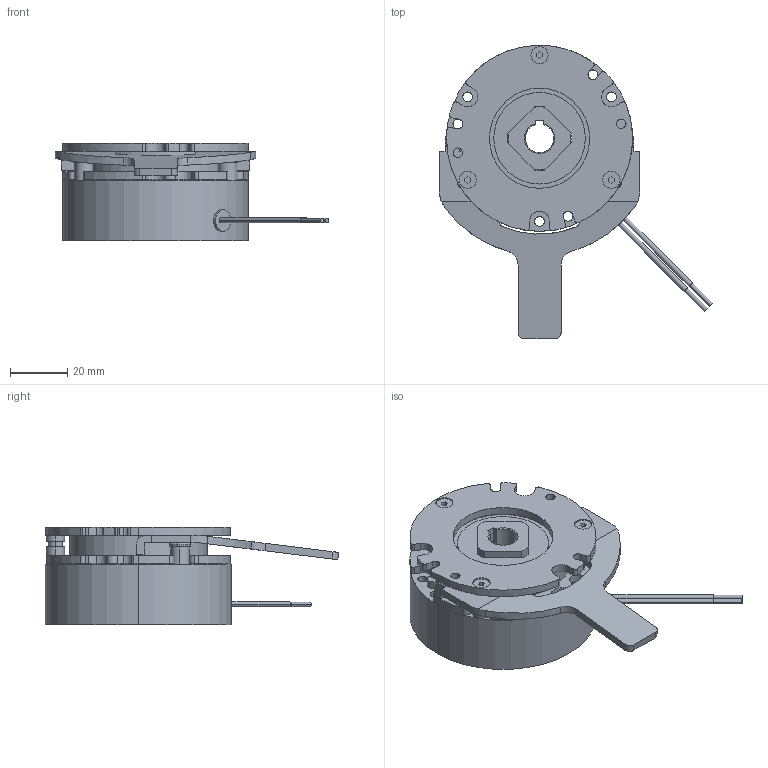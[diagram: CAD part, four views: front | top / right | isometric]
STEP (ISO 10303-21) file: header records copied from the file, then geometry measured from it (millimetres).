
FILE_DESCRIPTION (( 'STEP AP214' ), '1' );
FILE_NAME ('BXW-04-12.STEP', '2017-09-07T00:14:58', ( 'MIKI' ), ( '' ), 'SwSTEP 2.0', 'SolidWorks 2012', '' );
FILE_SCHEMA (( 'AUTOMOTIVE_DESIGN' ));
Length unit declared in the file: millimetre
Products named in the file (1): BXW-04-12
Bounding box: 95.48 x 102.5 x 33.9 mm (x, y, z)
Volume: 90380.8 mm3; surface area: 32018.5 mm2
Topology: 3 solids, 3 shells, 353 faces, 947 edges, 614 vertices
Faces by surface type: cylinder 181, plane 146, cone 18, torus 8
Entity records: 15348 total; most frequent: CARTESIAN_POINT 2239, DIRECTION 2003, ORIENTED_EDGE 1886, EDGE_CURVE 943, AXIS2_PLACEMENT_3D 742, VERTEX_POINT 614, LINE 519, VECTOR 519
